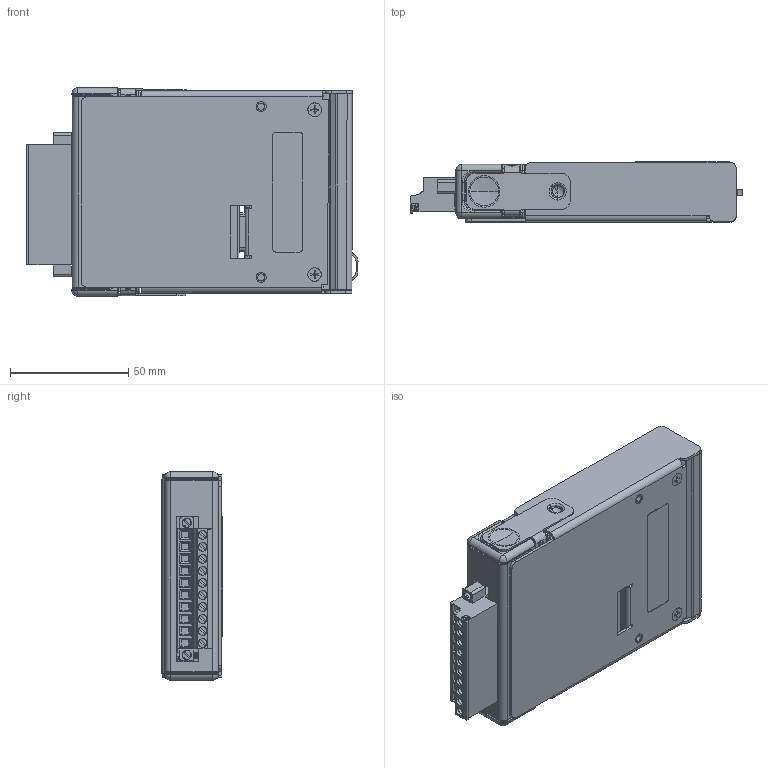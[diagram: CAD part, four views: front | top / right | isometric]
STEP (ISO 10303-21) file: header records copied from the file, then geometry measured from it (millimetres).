
FILE_DESCRIPTION((''),'2;1');
FILE_NAME('CU_USB_CARRIER_THERMOCOUPLE','2007-11-07T',('tvenable'),(''),'PRO/ENGINEER BY PARAMETRIC TECHNOLOGY CORPORATION, 2006080','PRO/ENGINEER BY PARAMETRIC TECHNOLOGY CORPORATION, 2006080','');
FILE_SCHEMA(('CONFIG_CONTROL_DESIGN'));
Products named in the file (1): CU_USB_CARRIER_THERMOCOUPLE
Bounding box: 140.39 x 25.5 x 88.12 mm (x, y, z)
Volume: 86399.6 mm3; surface area: 109505.6 mm2
Topology: 14 solids, 14 shells, 2395 faces, 5959 edges, 3645 vertices
Faces by surface type: plane 1105, cylinder 709, bspline 376, torus 73, sphere 69, cone 57, extrusion 6
Entity records: 91774 total; most frequent: CARTESIAN_POINT 37399, ORIENTED_EDGE 11776, DIRECTION 10461, EDGE_CURVE 5888, VERTEX_POINT 3683, AXIS2_PLACEMENT_3D 3591, VECTOR 3279, LINE 3273
